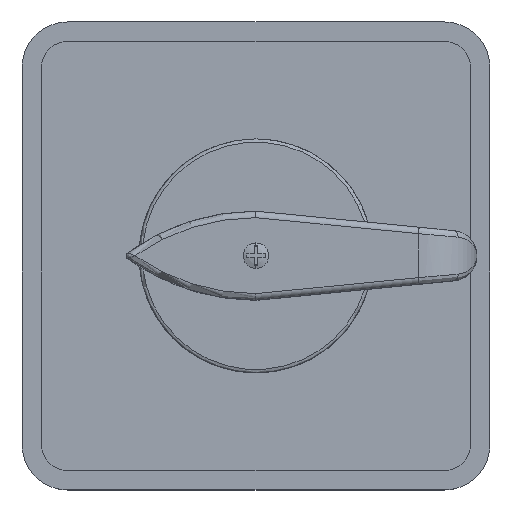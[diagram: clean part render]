
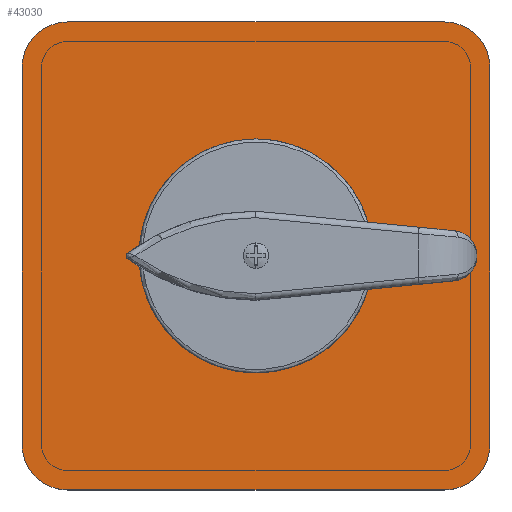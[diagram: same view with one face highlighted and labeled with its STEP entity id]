
A CAD part, top view. The second image highlights one B-rep face of the part: STEP entity #43030.
In plain terms, the highlighted planar face has unit normal (0, 0, 1).
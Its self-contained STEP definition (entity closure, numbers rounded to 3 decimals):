
#9161=CARTESIAN_POINT('',(29.,29.,3.35));
#9162=DIRECTION('',(0.,0.,1.));
#9163=DIRECTION('',(1.,0.,0.));
#9164=AXIS2_PLACEMENT_3D('',#9161,#9162,#9163);
#9166=DIRECTION('',(0.,1.,0.));
#9167=VECTOR('',#9166,58.);
#9168=CARTESIAN_POINT('',(36.,-29.,3.35));
#9169=LINE('',#9168,#9167);
#9170=CARTESIAN_POINT('',(29.,-29.,3.35));
#9171=DIRECTION('',(0.,0.,1.));
#9172=DIRECTION('',(0.,-1.,0.));
#9173=AXIS2_PLACEMENT_3D('',#9170,#9171,#9172);
#9175=DIRECTION('',(1.,0.,0.));
#9176=VECTOR('',#9175,58.);
#9177=CARTESIAN_POINT('',(-29.,-36.,3.35));
#9178=LINE('',#9177,#9176);
#9179=CARTESIAN_POINT('',(-29.,-29.,3.35));
#9180=DIRECTION('',(0.,0.,1.));
#9181=DIRECTION('',(-1.,0.,0.));
#9182=AXIS2_PLACEMENT_3D('',#9179,#9180,#9181);
#9184=DIRECTION('',(0.,-1.,0.));
#9185=VECTOR('',#9184,58.);
#9186=CARTESIAN_POINT('',(-36.,29.,3.35));
#9187=LINE('',#9186,#9185);
#9188=CARTESIAN_POINT('',(-29.,29.,3.35));
#9189=DIRECTION('',(0.,0.,1.));
#9190=DIRECTION('',(0.,1.,0.));
#9191=AXIS2_PLACEMENT_3D('',#9188,#9189,#9190);
#9193=DIRECTION('',(-1.,0.,0.));
#9194=VECTOR('',#9193,58.);
#9195=CARTESIAN_POINT('',(29.,36.,3.35));
#9196=LINE('',#9195,#9194);
#9197=DIRECTION('',(1.,0.,0.));
#9198=VECTOR('',#9197,8.);
#9199=CARTESIAN_POINT('',(-4.,4.,3.35));
#9200=LINE('',#9199,#9198);
#9209=DIRECTION('',(0.,-1.,0.));
#9210=VECTOR('',#9209,8.);
#9211=CARTESIAN_POINT('',(4.,4.,3.35));
#9212=LINE('',#9211,#9210);
#9221=DIRECTION('',(-1.,0.,0.));
#9222=VECTOR('',#9221,8.);
#9223=CARTESIAN_POINT('',(4.,-4.,3.35));
#9224=LINE('',#9223,#9222);
#9233=DIRECTION('',(0.,1.,0.));
#9234=VECTOR('',#9233,8.);
#9235=CARTESIAN_POINT('',(-4.,-4.,3.35));
#9236=LINE('',#9235,#9234);
#10084=CARTESIAN_POINT('',(0.,0.,3.35));
#10085=DIRECTION('',(0.,0.,1.));
#10086=DIRECTION('',(-0.947,0.322,0.));
#10087=AXIS2_PLACEMENT_3D('',#10084,#10085,#10086);
#10094=DIRECTION('',(-1.,0.,0.));
#10095=VECTOR('',#10094,1.727);
#10096=CARTESIAN_POINT('',(-8.52,-2.9,3.35));
#10097=LINE('',#10096,#10095);
#10119=CARTESIAN_POINT('',(0.,0.,3.35));
#10120=DIRECTION('',(0.,0.,1.));
#10121=DIRECTION('',(-0.962,0.272,0.));
#10122=AXIS2_PLACEMENT_3D('',#10119,#10120,#10121);
#10129=DIRECTION('',(1.,0.,0.));
#10130=VECTOR('',#10129,1.727);
#10131=CARTESIAN_POINT('',(-10.247,2.9,3.35));
#10132=LINE('',#10131,#10130);
#10154=CARTESIAN_POINT('',(0.,0.,3.35));
#10155=DIRECTION('',(0.,0.,1.));
#10156=DIRECTION('',(0.322,0.947,0.));
#10157=AXIS2_PLACEMENT_3D('',#10154,#10155,#10156);
#10164=DIRECTION('',(0.,1.,0.));
#10165=VECTOR('',#10164,1.727);
#10166=CARTESIAN_POINT('',(-2.9,8.52,3.35));
#10167=LINE('',#10166,#10165);
#10189=CARTESIAN_POINT('',(0.,0.,3.35));
#10190=DIRECTION('',(0.,0.,1.));
#10191=DIRECTION('',(0.272,0.962,0.));
#10192=AXIS2_PLACEMENT_3D('',#10189,#10190,#10191);
#10199=DIRECTION('',(0.,-1.,0.));
#10200=VECTOR('',#10199,1.727);
#10201=CARTESIAN_POINT('',(2.9,10.247,3.35));
#10202=LINE('',#10201,#10200);
#10224=CARTESIAN_POINT('',(0.,0.,3.35));
#10225=DIRECTION('',(0.,0.,1.));
#10226=DIRECTION('',(0.947,-0.322,0.));
#10227=AXIS2_PLACEMENT_3D('',#10224,#10225,#10226);
#10238=DIRECTION('',(1.,0.,0.));
#10239=VECTOR('',#10238,1.727);
#10240=CARTESIAN_POINT('',(8.52,2.9,3.35));
#10241=LINE('',#10240,#10239);
#10259=CARTESIAN_POINT('',(0.,0.,3.35));
#10260=DIRECTION('',(0.,0.,1.));
#10261=DIRECTION('',(0.962,-0.272,0.));
#10262=AXIS2_PLACEMENT_3D('',#10259,#10260,#10261);
#10269=DIRECTION('',(-1.,0.,0.));
#10270=VECTOR('',#10269,1.727);
#10271=CARTESIAN_POINT('',(10.247,-2.9,3.35));
#10272=LINE('',#10271,#10270);
#10294=CARTESIAN_POINT('',(0.,0.,3.35));
#10295=DIRECTION('',(0.,0.,1.));
#10296=DIRECTION('',(-0.322,-0.947,0.));
#10297=AXIS2_PLACEMENT_3D('',#10294,#10295,#10296);
#10304=DIRECTION('',(0.,-1.,0.));
#10305=VECTOR('',#10304,1.727);
#10306=CARTESIAN_POINT('',(2.9,-8.52,3.35));
#10307=LINE('',#10306,#10305);
#10329=CARTESIAN_POINT('',(0.,0.,3.35));
#10330=DIRECTION('',(0.,0.,1.));
#10331=DIRECTION('',(-0.272,-0.962,0.));
#10332=AXIS2_PLACEMENT_3D('',#10329,#10330,#10331);
#10339=DIRECTION('',(0.,1.,0.));
#10340=VECTOR('',#10339,1.727);
#10341=CARTESIAN_POINT('',(-2.9,-10.247,3.35));
#10342=LINE('',#10341,#10340);
#24943=CARTESIAN_POINT('',(36.,29.,3.35));
#24944=VERTEX_POINT('',#24943);
#24945=CARTESIAN_POINT('',(29.,36.,3.35));
#24946=VERTEX_POINT('',#24945);
#24951=CARTESIAN_POINT('',(29.,-36.,3.35));
#24952=VERTEX_POINT('',#24951);
#24953=CARTESIAN_POINT('',(36.,-29.,3.35));
#24954=VERTEX_POINT('',#24953);
#24959=CARTESIAN_POINT('',(-36.,-29.,3.35));
#24960=VERTEX_POINT('',#24959);
#24961=CARTESIAN_POINT('',(-29.,-36.,3.35));
#24962=VERTEX_POINT('',#24961);
#24967=CARTESIAN_POINT('',(-29.,36.,3.35));
#24968=VERTEX_POINT('',#24967);
#24969=CARTESIAN_POINT('',(-36.,29.,3.35));
#24970=VERTEX_POINT('',#24969);
#31463=CARTESIAN_POINT('',(-2.9,-8.52,3.35));
#31464=CARTESIAN_POINT('',(2.9,-8.52,3.35));
#31465=VERTEX_POINT('',#31463);
#31466=VERTEX_POINT('',#31464);
#31467=CARTESIAN_POINT('',(8.52,-2.9,3.35));
#31468=CARTESIAN_POINT('',(8.52,2.9,3.35));
#31469=VERTEX_POINT('',#31467);
#31470=VERTEX_POINT('',#31468);
#31471=CARTESIAN_POINT('',(2.9,8.52,3.35));
#31472=CARTESIAN_POINT('',(-2.9,8.52,3.35));
#31473=VERTEX_POINT('',#31471);
#31474=VERTEX_POINT('',#31472);
#31475=CARTESIAN_POINT('',(-8.52,2.9,3.35));
#31476=CARTESIAN_POINT('',(-8.52,-2.9,3.35));
#31477=VERTEX_POINT('',#31475);
#31478=VERTEX_POINT('',#31476);
#31495=CARTESIAN_POINT('',(10.247,-2.9,3.35));
#31496=VERTEX_POINT('',#31495);
#31499=CARTESIAN_POINT('',(10.247,2.9,3.35));
#31500=VERTEX_POINT('',#31499);
#31503=CARTESIAN_POINT('',(2.9,10.247,3.35));
#31504=VERTEX_POINT('',#31503);
#31507=CARTESIAN_POINT('',(-2.9,10.247,3.35));
#31508=VERTEX_POINT('',#31507);
#31511=CARTESIAN_POINT('',(-10.247,2.9,3.35));
#31512=VERTEX_POINT('',#31511);
#31515=CARTESIAN_POINT('',(-10.247,-2.9,3.35));
#31516=VERTEX_POINT('',#31515);
#31519=CARTESIAN_POINT('',(-2.9,-10.247,3.35));
#31520=VERTEX_POINT('',#31519);
#31523=CARTESIAN_POINT('',(2.9,-10.247,3.35));
#31524=VERTEX_POINT('',#31523);
#31527=CARTESIAN_POINT('',(-4.,4.,3.35));
#31528=CARTESIAN_POINT('',(4.,4.,3.35));
#31529=VERTEX_POINT('',#31527);
#31530=VERTEX_POINT('',#31528);
#31535=CARTESIAN_POINT('',(4.,-4.,3.35));
#31536=VERTEX_POINT('',#31535);
#31539=CARTESIAN_POINT('',(-4.,-4.,3.35));
#31540=VERTEX_POINT('',#31539);
#42965=CARTESIAN_POINT('',(0.,0.,3.35));
#42966=DIRECTION('',(0.,0.,1.));
#42967=DIRECTION('',(1.,0.,0.));
#42968=AXIS2_PLACEMENT_3D('',#42965,#42966,#42967);
#42969=PLANE('',#42968);
#42970=ORIENTED_EDGE('',*,*,#42861,.F.);
#42971=ORIENTED_EDGE('',*,*,#42877,.F.);
#42972=ORIENTED_EDGE('',*,*,#42890,.F.);
#42973=ORIENTED_EDGE('',*,*,#42905,.F.);
#42974=ORIENTED_EDGE('',*,*,#42918,.F.);
#42975=ORIENTED_EDGE('',*,*,#42933,.F.);
#42976=ORIENTED_EDGE('',*,*,#42946,.F.);
#42977=ORIENTED_EDGE('',*,*,#42958,.F.);
#42978=EDGE_LOOP('',(#42970,#42971,#42972,#42973,#42974,#42975,#42976,#42977));
#42979=FACE_OUTER_BOUND('',#42978,.F.);
#42981=ORIENTED_EDGE('',*,*,#42980,.F.);
#42983=ORIENTED_EDGE('',*,*,#42982,.F.);
#42985=ORIENTED_EDGE('',*,*,#42984,.F.);
#42987=ORIENTED_EDGE('',*,*,#42986,.F.);
#42988=EDGE_LOOP('',(#42981,#42983,#42985,#42987));
#42989=FACE_BOUND('',#42988,.F.);
#42991=ORIENTED_EDGE('',*,*,#42990,.F.);
#42993=ORIENTED_EDGE('',*,*,#42992,.F.);
#42995=ORIENTED_EDGE('',*,*,#42994,.T.);
#42997=ORIENTED_EDGE('',*,*,#42996,.F.);
#42998=EDGE_LOOP('',(#42991,#42993,#42995,#42997));
#42999=FACE_BOUND('',#42998,.F.);
#43001=ORIENTED_EDGE('',*,*,#43000,.F.);
#43003=ORIENTED_EDGE('',*,*,#43002,.F.);
#43005=ORIENTED_EDGE('',*,*,#43004,.T.);
#43007=ORIENTED_EDGE('',*,*,#43006,.F.);
#43008=EDGE_LOOP('',(#43001,#43003,#43005,#43007));
#43009=FACE_BOUND('',#43008,.F.);
#43011=ORIENTED_EDGE('',*,*,#43010,.F.);
#43013=ORIENTED_EDGE('',*,*,#43012,.F.);
#43015=ORIENTED_EDGE('',*,*,#43014,.T.);
#43017=ORIENTED_EDGE('',*,*,#43016,.F.);
#43018=EDGE_LOOP('',(#43011,#43013,#43015,#43017));
#43019=FACE_BOUND('',#43018,.F.);
#43021=ORIENTED_EDGE('',*,*,#43020,.F.);
#43023=ORIENTED_EDGE('',*,*,#43022,.F.);
#43025=ORIENTED_EDGE('',*,*,#43024,.T.);
#43027=ORIENTED_EDGE('',*,*,#43026,.F.);
#43028=EDGE_LOOP('',(#43021,#43023,#43025,#43027));
#43029=FACE_BOUND('',#43028,.F.);
#43030=ADVANCED_FACE('',(#42979,#42989,#42999,#43009,#43019,#43029),#42969,.T.);
#9165=CIRCLE('',#9164,7.);
#9174=CIRCLE('',#9173,7.);
#9183=CIRCLE('',#9182,7.);
#9192=CIRCLE('',#9191,7.);
#10088=CIRCLE('',#10087,9.);
#10123=CIRCLE('',#10122,10.65);
#10158=CIRCLE('',#10157,9.);
#10193=CIRCLE('',#10192,10.65);
#10228=CIRCLE('',#10227,9.);
#10263=CIRCLE('',#10262,10.65);
#10298=CIRCLE('',#10297,9.);
#10333=CIRCLE('',#10332,10.65);
#42861=EDGE_CURVE('',#24944,#24946,#9165,.T.);
#42877=EDGE_CURVE('',#24954,#24944,#9169,.T.);
#42890=EDGE_CURVE('',#24952,#24954,#9174,.T.);
#42905=EDGE_CURVE('',#24962,#24952,#9178,.T.);
#42918=EDGE_CURVE('',#24960,#24962,#9183,.T.);
#42933=EDGE_CURVE('',#24970,#24960,#9187,.T.);
#42946=EDGE_CURVE('',#24968,#24970,#9192,.T.);
#42958=EDGE_CURVE('',#24946,#24968,#9196,.T.);
#42980=EDGE_CURVE('',#31529,#31530,#9200,.T.);
#42982=EDGE_CURVE('',#31540,#31529,#9236,.T.);
#42984=EDGE_CURVE('',#31536,#31540,#9224,.T.);
#42986=EDGE_CURVE('',#31530,#31536,#9212,.T.);
#42990=EDGE_CURVE('',#31477,#31478,#10088,.T.);
#42992=EDGE_CURVE('',#31512,#31477,#10132,.T.);
#42994=EDGE_CURVE('',#31512,#31516,#10123,.T.);
#42996=EDGE_CURVE('',#31478,#31516,#10097,.T.);
#43000=EDGE_CURVE('',#31473,#31474,#10158,.T.);
#43002=EDGE_CURVE('',#31504,#31473,#10202,.T.);
#43004=EDGE_CURVE('',#31504,#31508,#10193,.T.);
#43006=EDGE_CURVE('',#31474,#31508,#10167,.T.);
#43010=EDGE_CURVE('',#31469,#31470,#10228,.T.);
#43012=EDGE_CURVE('',#31496,#31469,#10272,.T.);
#43014=EDGE_CURVE('',#31496,#31500,#10263,.T.);
#43016=EDGE_CURVE('',#31470,#31500,#10241,.T.);
#43020=EDGE_CURVE('',#31465,#31466,#10298,.T.);
#43022=EDGE_CURVE('',#31520,#31465,#10342,.T.);
#43024=EDGE_CURVE('',#31520,#31524,#10333,.T.);
#43026=EDGE_CURVE('',#31466,#31524,#10307,.T.);
